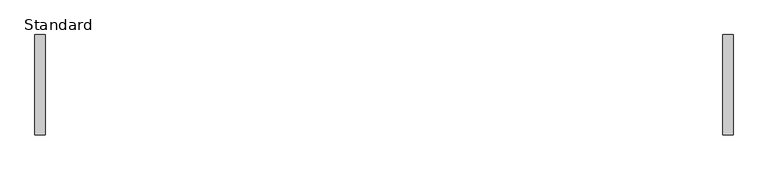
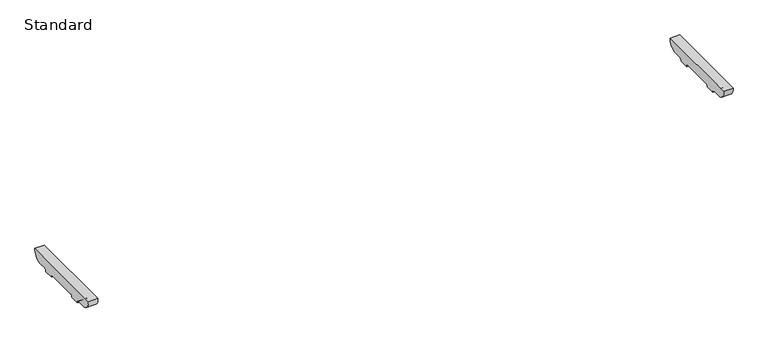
"""IFC4 building model written with IfcOpenShell, lengths in millimetres: furniture geometry, BDG_BossDesign_Tbls_AgentTables4Legs_Nested : Standard."""

from ifc_helpers import new_model, si_unit, point, frame, frame_2d, origin, place, context, project, spatial, polyline, circle_curve, trimmed, segment, composite_curve, outline, extrude, source, transform, mapped, element, save


def standard_fa61a7d6(model_context):
    return source(origin(), model_context, "Body", "SweptSolid", [
        extrude(outline(composite_curve([segment(polyline([(180.5450184, 672.0), (142.7000122, 672.0)]), True, "CONTINUOUS"), segment(trimmed(circle_curve(frame_2d((142.7000122, 660.0)), 12.0), [point((142.7000122, 672.0))], [point((130.7000122, 660.0))], True, "CARTESIAN"), True, "CONTINUOUS"), segment(polyline([(130.7000122, 660.0), (85.7000122, 660.0)]), True, "CONTINUOUS"), segment(trimmed(circle_curve(frame_2d((73.7000122, 660.0)), 12.0), [point((85.7000122, 660.0))], [point((73.7000122, 672.0))], True, "CARTESIAN"), True, "CONTINUOUS"), segment(polyline([(73.7000122, 672.0), (-73.7000122, 672.0)]), True, "CONTINUOUS"), segment(trimmed(circle_curve(frame_2d((-73.7000122, 660.0)), 12.0), [point((-73.7000122, 672.0))], [point((-85.7000122, 660.0))], True, "CARTESIAN"), True, "CONTINUOUS"), segment(polyline([(-85.7000122, 660.0), (-130.7000122, 660.0)]), True, "CONTINUOUS"), segment(trimmed(circle_curve(frame_2d((-142.7000122, 660.0)), 12.0), [point((-130.7000122, 660.0))], [point((-142.7000122, 672.0))], True, "CARTESIAN"), True, "CONTINUOUS"), segment(polyline([(-142.7000122, 672.0), (-180.5450184, 672.0)]), True, "CONTINUOUS"), segment(trimmed(circle_curve(frame_2d((-178.2220439, 716.5514119)), 44.6119324), [point((-180.5450184, 672.0))], [point((-222.5, 722.0))], False, "CARTESIAN"), True, "CONTINUOUS"), segment(polyline([(-222.5, 722.0), (222.5, 722.0)]), True, "CONTINUOUS"), segment(trimmed(circle_curve(frame_2d((178.2220439, 716.5514119)), 44.6119324), [point((222.5, 722.0))], [point((180.5450184, 672.0))], False, "CARTESIAN"), True, "CONTINUOUS")], self_intersect=False)), frame((1505.0, 0.0, 0.0), z_axis=(1.0, 0.0, 0.0), x_axis=(0.0, 1.0, 0.0)), (0.0, 0.0, 1.0), 45.0),
        extrude(outline(composite_curve([segment(polyline([(180.5450184, 672.0), (142.7000122, 672.0)]), True, "CONTINUOUS"), segment(trimmed(circle_curve(frame_2d((142.7000122, 660.0)), 12.0), [point((142.7000122, 672.0))], [point((130.7000122, 660.0))], True, "CARTESIAN"), True, "CONTINUOUS"), segment(polyline([(130.7000122, 660.0), (85.7000122, 660.0)]), True, "CONTINUOUS"), segment(trimmed(circle_curve(frame_2d((73.7000122, 660.0)), 12.0), [point((85.7000122, 660.0))], [point((73.7000122, 672.0))], True, "CARTESIAN"), True, "CONTINUOUS"), segment(polyline([(73.7000122, 672.0), (-73.7000122, 672.0)]), True, "CONTINUOUS"), segment(trimmed(circle_curve(frame_2d((-73.7000122, 660.0)), 12.0), [point((-73.7000122, 672.0))], [point((-85.7000122, 660.0))], True, "CARTESIAN"), True, "CONTINUOUS"), segment(polyline([(-85.7000122, 660.0), (-130.7000122, 660.0)]), True, "CONTINUOUS"), segment(trimmed(circle_curve(frame_2d((-142.7000122, 660.0)), 12.0), [point((-130.7000122, 660.0))], [point((-142.7000122, 672.0))], True, "CARTESIAN"), True, "CONTINUOUS"), segment(polyline([(-142.7000122, 672.0), (-180.5450184, 672.0)]), True, "CONTINUOUS"), segment(trimmed(circle_curve(frame_2d((-178.2220439, 716.5514119)), 44.6119324), [point((-180.5450184, 672.0))], [point((-222.5, 722.0))], False, "CARTESIAN"), True, "CONTINUOUS"), segment(polyline([(-222.5, 722.0), (222.5, 722.0)]), True, "CONTINUOUS"), segment(trimmed(circle_curve(frame_2d((178.2220439, 716.5514119)), 44.6119324), [point((222.5, 722.0))], [point((180.5450184, 672.0))], False, "CARTESIAN"), True, "CONTINUOUS")], self_intersect=False)), frame((-1550.0, 0.0, 0.0), z_axis=(1.0, 0.0, 0.0), x_axis=(0.0, 1.0, 0.0)), (0.0, 0.0, 1.0), 45.0),
    ])


if __name__ == "__main__":
    model = new_model("IFC4")
    model_context = context("Model", 3, world=origin())
    ifc_project = project(units=[si_unit("LENGTHUNIT", "METRE", prefix="MILLI")], contexts=[model_context])
    site = spatial("IfcSite", under=ifc_project)
    building = spatial("IfcBuilding", under=site)
    placement = place(None, origin())
    standard_shape = standard_fa61a7d6(model_context)
    element("IfcFurniture", 1, ObjectType="BDG_BossDesign_Tbls_AgentTables4Legs_Nested : Standard", at=placement, inside=building, context=model_context, shape_type="MappedRepresentation", body=[
        mapped(standard_shape, transform((0.0, 0.0, 0.0), x_axis=(1.0, 0.0, 0.0), y_axis=(0.0, 1.0, 0.0), z_axis=(0.0, 0.0, 1.0))),
    ])
    save(model, "model.ifc")
